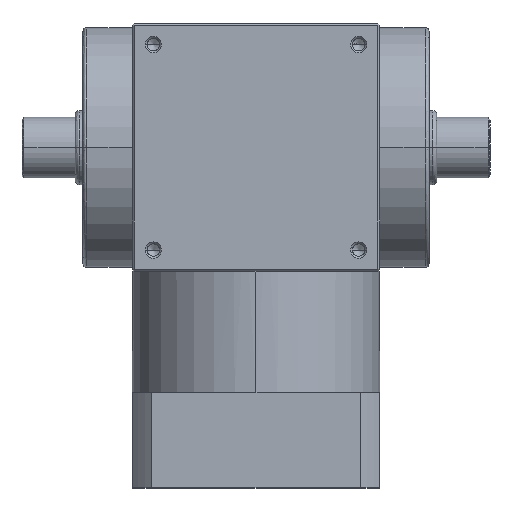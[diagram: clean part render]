
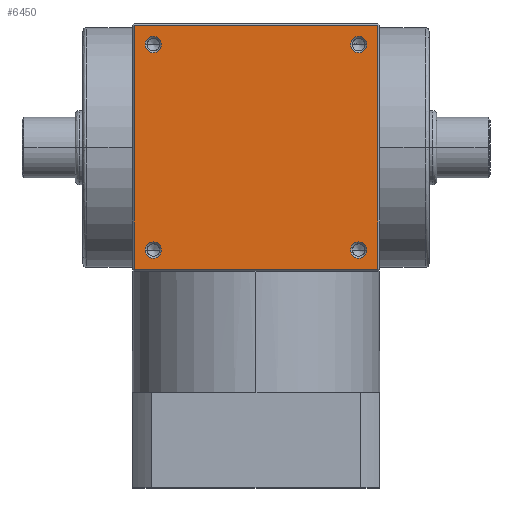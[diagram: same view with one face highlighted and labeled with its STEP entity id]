
A CAD part, top view. The second image highlights one B-rep face of the part: STEP entity #6450.
In plain terms, the highlighted planar face has unit normal (0, 0, 1).
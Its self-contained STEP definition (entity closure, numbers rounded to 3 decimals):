
#40 = AXIS2_PLACEMENT_3D ( 'NONE', #3328, #8169, #7507 ) ;
#71 = CARTESIAN_POINT ( 'NONE',  ( -27., 27., 32.5 ) ) ;
#109 = CARTESIAN_POINT ( 'NONE',  ( -27., 27., 32.5 ) ) ;
#228 = VECTOR ( 'NONE', #6187, 1000. ) ;
#382 = VERTEX_POINT ( 'NONE', #1181 ) ;
#403 = DIRECTION ( 'NONE',  ( 1., 0., 0. ) ) ;
#469 = EDGE_CURVE ( 'NONE', #3022, #8577, #6428, .T. ) ;
#475 = CIRCLE ( 'NONE', #5750, 2.15 ) ;
#660 = DIRECTION ( 'NONE',  ( 0., 0., 1. ) ) ;
#752 = DIRECTION ( 'NONE',  ( 1., 0., 0. ) ) ;
#768 = LINE ( 'NONE', #8250, #8278 ) ;
#842 = AXIS2_PLACEMENT_3D ( 'NONE', #8565, #1011, #2394 ) ;
#871 = DIRECTION ( 'NONE',  ( 1., 0., 0. ) ) ;
#1011 = DIRECTION ( 'NONE',  ( 0., 0., -1. ) ) ;
#1092 = EDGE_CURVE ( 'NONE', #5523, #3331, #768, .T. ) ;
#1095 = FACE_BOUND ( 'NONE', #1988, .T. ) ;
#1181 = CARTESIAN_POINT ( 'NONE',  ( 29.15, 27., 32.5 ) ) ;
#1202 = CARTESIAN_POINT ( 'NONE',  ( -29.15, 27., 32.5 ) ) ;
#1249 = ORIENTED_EDGE ( 'NONE', *, *, #1092, .F. ) ;
#1272 = CARTESIAN_POINT ( 'NONE',  ( -29.15, -27., 32.5 ) ) ;
#1474 = CARTESIAN_POINT ( 'NONE',  ( -32., 0., 32.5 ) ) ;
#1512 = VERTEX_POINT ( 'NONE', #3930 ) ;
#1515 = CARTESIAN_POINT ( 'NONE',  ( 27., -27., 32.5 ) ) ;
#1562 = VERTEX_POINT ( 'NONE', #1272 ) ;
#1907 = CARTESIAN_POINT ( 'NONE',  ( 32., 0., 32.5 ) ) ;
#1978 = EDGE_CURVE ( 'NONE', #3022, #5523, #6326, .T. ) ;
#1988 = EDGE_LOOP ( 'NONE', ( #5331, #7813 ) ) ;
#2041 = CARTESIAN_POINT ( 'NONE',  ( 32., -32., 32.5 ) ) ;
#2074 = EDGE_CURVE ( 'NONE', #6414, #7047, #3095, .T. ) ;
#2154 = ORIENTED_EDGE ( 'NONE', *, *, #7112, .F. ) ;
#2177 = FACE_BOUND ( 'NONE', #7162, .T. ) ;
#2199 = DIRECTION ( 'NONE',  ( 0., 0., 1. ) ) ;
#2220 = CARTESIAN_POINT ( 'NONE',  ( 0., -32., 32.5 ) ) ;
#2246 = CIRCLE ( 'NONE', #3452, 2.15 ) ;
#2330 = AXIS2_PLACEMENT_3D ( 'NONE', #3464, #660, #8241 ) ;
#2394 = DIRECTION ( 'NONE',  ( -1., 0., 0. ) ) ;
#2543 = ORIENTED_EDGE ( 'NONE', *, *, #7511, .F. ) ;
#2575 = DIRECTION ( 'NONE',  ( 0., 0., 1. ) ) ;
#2626 = ORIENTED_EDGE ( 'NONE', *, *, #2880, .F. ) ;
#2750 = EDGE_CURVE ( 'NONE', #4989, #1562, #3624, .T. ) ;
#2802 = CARTESIAN_POINT ( 'NONE',  ( -32., -32., 32.5 ) ) ;
#2852 = VERTEX_POINT ( 'NONE', #1202 ) ;
#2880 = EDGE_CURVE ( 'NONE', #3331, #8577, #5021, .T. ) ;
#2892 = EDGE_CURVE ( 'NONE', #1562, #4989, #2246, .T. ) ;
#2899 = CARTESIAN_POINT ( 'NONE',  ( -32., 32., 32.5 ) ) ;
#3022 = VERTEX_POINT ( 'NONE', #2802 ) ;
#3095 = CIRCLE ( 'NONE', #8088, 2.15 ) ;
#3325 = CARTESIAN_POINT ( 'NONE',  ( -27., -27., 32.5 ) ) ;
#3328 = CARTESIAN_POINT ( 'NONE',  ( 27., -27., 32.5 ) ) ;
#3331 = VERTEX_POINT ( 'NONE', #3829 ) ;
#3343 = EDGE_CURVE ( 'NONE', #1512, #382, #8157, .T. ) ;
#3452 = AXIS2_PLACEMENT_3D ( 'NONE', #3325, #2575, #4008 ) ;
#3454 = FACE_BOUND ( 'NONE', #5569, .T. ) ;
#3464 = CARTESIAN_POINT ( 'NONE',  ( 27., 27., 32.5 ) ) ;
#3619 = DIRECTION ( 'NONE',  ( 0., 0., 1. ) ) ;
#3624 = CIRCLE ( 'NONE', #3741, 2.15 ) ;
#3690 = CIRCLE ( 'NONE', #3940, 2.15 ) ;
#3741 = AXIS2_PLACEMENT_3D ( 'NONE', #5846, #8636, #403 ) ;
#3742 = DIRECTION ( 'NONE',  ( 0., 0., 1. ) ) ;
#3829 = CARTESIAN_POINT ( 'NONE',  ( 32., 32., 32.5 ) ) ;
#3930 = CARTESIAN_POINT ( 'NONE',  ( 24.85, 27., 32.5 ) ) ;
#3940 = AXIS2_PLACEMENT_3D ( 'NONE', #71, #4061, #8873 ) ;
#4008 = DIRECTION ( 'NONE',  ( 1., 0., 0. ) ) ;
#4061 = DIRECTION ( 'NONE',  ( 0., 0., 1. ) ) ;
#4157 = DIRECTION ( 'NONE',  ( 1., 0., 0. ) ) ;
#4181 = ORIENTED_EDGE ( 'NONE', *, *, #1978, .F. ) ;
#4376 = ORIENTED_EDGE ( 'NONE', *, *, #5898, .F. ) ;
#4391 = VERTEX_POINT ( 'NONE', #5853 ) ;
#4636 = CARTESIAN_POINT ( 'NONE',  ( 27., 27., 32.5 ) ) ;
#4946 = FACE_OUTER_BOUND ( 'NONE', #6279, .T. ) ;
#4989 = VERTEX_POINT ( 'NONE', #8660 ) ;
#5021 = LINE ( 'NONE', #1907, #7274 ) ;
#5178 = CIRCLE ( 'NONE', #2330, 2.15 ) ;
#5215 = CARTESIAN_POINT ( 'NONE',  ( 24.85, -27., 32.5 ) ) ;
#5331 = ORIENTED_EDGE ( 'NONE', *, *, #2750, .F. ) ;
#5370 = DIRECTION ( 'NONE',  ( 0., -1., 0. ) ) ;
#5444 = EDGE_CURVE ( 'NONE', #2852, #4391, #475, .T. ) ;
#5522 = DIRECTION ( 'NONE',  ( 1., 0., 0. ) ) ;
#5523 = VERTEX_POINT ( 'NONE', #2899 ) ;
#5569 = EDGE_LOOP ( 'NONE', ( #4376, #6871 ) ) ;
#5750 = AXIS2_PLACEMENT_3D ( 'NONE', #109, #2199, #4157 ) ;
#5796 = PLANE ( 'NONE',  #842 ) ;
#5846 = CARTESIAN_POINT ( 'NONE',  ( -27., -27., 32.5 ) ) ;
#5853 = CARTESIAN_POINT ( 'NONE',  ( -24.85, 27., 32.5 ) ) ;
#5898 = EDGE_CURVE ( 'NONE', #382, #1512, #5178, .T. ) ;
#6188 = ORIENTED_EDGE ( 'NONE', *, *, #5444, .F. ) ;
#6187 = DIRECTION ( 'NONE',  ( 0., 1., 0. ) ) ;
#6215 = VECTOR ( 'NONE', #752, 1000. ) ;
#6279 = EDGE_LOOP ( 'NONE', ( #8567, #2626, #1249, #4181 ) ) ;
#6326 = LINE ( 'NONE', #1474, #228 ) ;
#6414 = VERTEX_POINT ( 'NONE', #8475 ) ;
#6428 = LINE ( 'NONE', #2220, #6215 ) ;
#6450 = ADVANCED_FACE ( 'NONE', ( #7657, #3454, #1095, #2177, #4946 ), #5796, .F. ) ;
#6497 = DIRECTION ( 'NONE',  ( 1., 0., 0. ) ) ;
#6871 = ORIENTED_EDGE ( 'NONE', *, *, #3343, .F. ) ;
#7047 = VERTEX_POINT ( 'NONE', #5215 ) ;
#7074 = AXIS2_PLACEMENT_3D ( 'NONE', #4636, #3742, #6497 ) ;
#7112 = EDGE_CURVE ( 'NONE', #7047, #6414, #7354, .T. ) ;
#7162 = EDGE_LOOP ( 'NONE', ( #8048, #2154 ) ) ;
#7274 = VECTOR ( 'NONE', #5370, 1000. ) ;
#7354 = CIRCLE ( 'NONE', #40, 2.15 ) ;
#7507 = DIRECTION ( 'NONE',  ( 1., 0., 0. ) ) ;
#7511 = EDGE_CURVE ( 'NONE', #4391, #2852, #3690, .T. ) ;
#7657 = FACE_BOUND ( 'NONE', #7921, .T. ) ;
#7813 = ORIENTED_EDGE ( 'NONE', *, *, #2892, .F. ) ;
#7921 = EDGE_LOOP ( 'NONE', ( #2543, #6188 ) ) ;
#8048 = ORIENTED_EDGE ( 'NONE', *, *, #2074, .F. ) ;
#8088 = AXIS2_PLACEMENT_3D ( 'NONE', #1515, #3619, #871 ) ;
#8157 = CIRCLE ( 'NONE', #7074, 2.15 ) ;
#8169 = DIRECTION ( 'NONE',  ( 0., 0., 1. ) ) ;
#8241 = DIRECTION ( 'NONE',  ( 1., 0., 0. ) ) ;
#8250 = CARTESIAN_POINT ( 'NONE',  ( 0., 32., 32.5 ) ) ;
#8278 = VECTOR ( 'NONE', #5522, 1000. ) ;
#8475 = CARTESIAN_POINT ( 'NONE',  ( 29.15, -27., 32.5 ) ) ;
#8565 = CARTESIAN_POINT ( 'NONE',  ( 32., -32., 32.5 ) ) ;
#8567 = ORIENTED_EDGE ( 'NONE', *, *, #469, .T. ) ;
#8577 = VERTEX_POINT ( 'NONE', #2041 ) ;
#8636 = DIRECTION ( 'NONE',  ( 0., 0., 1. ) ) ;
#8660 = CARTESIAN_POINT ( 'NONE',  ( -24.85, -27., 32.5 ) ) ;
#8873 = DIRECTION ( 'NONE',  ( 1., 0., 0. ) ) ;
